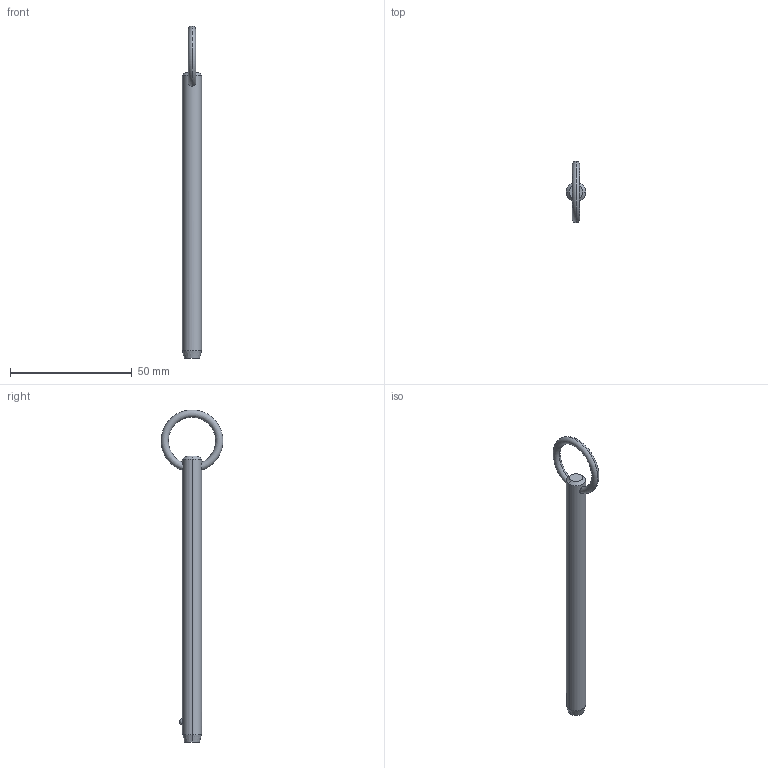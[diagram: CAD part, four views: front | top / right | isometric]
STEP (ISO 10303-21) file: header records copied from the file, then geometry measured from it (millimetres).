
FILE_DESCRIPTION (( 'STEP AP203' ), '1' );
FILE_NAME ('P1250.031-400.step', '2019-07-29T19:55:20', ( '' ), ( '' ), 'SwSTEP 2.0', 'SolidWorks 2017', '' );
FILE_SCHEMA (( 'CONFIG_CONTROL_DESIGN' ));
Length unit declared in the file: millimetre
Products named in the file (1): P1250.031-400
Bounding box: 7.93 x 25.36 x 136.51 mm (x, y, z)
Volume: 6202.3 mm3; surface area: 3561.9 mm2
Topology: 1 solids, 1 shells, 12 faces, 28 edges, 17 vertices
Faces by surface type: cone 4, torus 2, sphere 2, cylinder 2, plane 2
Entity records: 509 total; most frequent: CARTESIAN_POINT 176, DIRECTION 56, ORIENTED_EDGE 48, AXIS2_PLACEMENT_3D 25, EDGE_CURVE 24, EDGE_LOOP 15, VERTEX_POINT 15, FACE_OUTER_BOUND 12
